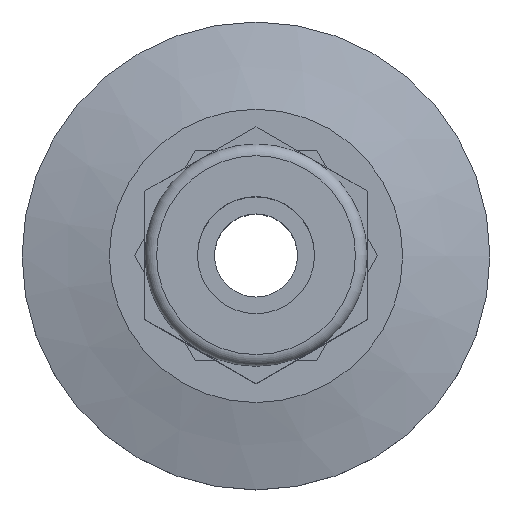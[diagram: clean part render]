
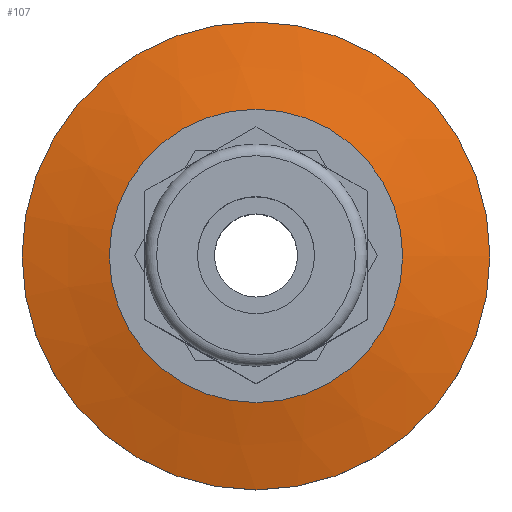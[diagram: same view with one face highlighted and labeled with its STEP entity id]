
A CAD part, top view. The second image highlights one B-rep face of the part: STEP entity #107.
In plain terms, the highlighted conical face has half-angle 75 degrees and reference radius 20 mm.
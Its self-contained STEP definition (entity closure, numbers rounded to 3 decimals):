
#107 = ADVANCED_FACE( '', ( #222, #223 ), #224, .T. );
#222 = FACE_BOUND( '', #374, .T. );
#223 = FACE_OUTER_BOUND( '', #375, .T. );
#224 = CONICAL_SURFACE( '', #376, 20., 1.309 );
#374 = EDGE_LOOP( '', ( #518 ) );
#375 = EDGE_LOOP( '', ( #519 ) );
#376 = AXIS2_PLACEMENT_3D( '', #520, #521, #522 );
#518 = ORIENTED_EDGE( '', *, *, #806, .F. );
#519 = ORIENTED_EDGE( '', *, *, #807, .T. );
#520 = CARTESIAN_POINT( '', ( 0., 0., 3. ) );
#521 = DIRECTION( '', ( 0., 0., -1. ) );
#522 = DIRECTION( '', ( -1., 0., 0. ) );
#806 = EDGE_CURVE( '', #915, #915, #916, .T. );
#807 = EDGE_CURVE( '', #917, #917, #918, .T. );
#915 = VERTEX_POINT( '', #1072 );
#916 = CIRCLE( '', #1073, 12.536 );
#917 = VERTEX_POINT( '', #1074 );
#918 = CIRCLE( '', #1075, 20. );
#1072 = CARTESIAN_POINT( '', ( 12.536, 0., 5. ) );
#1073 = AXIS2_PLACEMENT_3D( '', #1264, #1265, #1266 );
#1074 = CARTESIAN_POINT( '', ( 20., 0., 3. ) );
#1075 = AXIS2_PLACEMENT_3D( '', #1267, #1268, #1269 );
#1264 = CARTESIAN_POINT( '', ( 0., 0., 5. ) );
#1265 = DIRECTION( '', ( 0., 0., 1. ) );
#1266 = DIRECTION( '', ( 1., 0., 0. ) );
#1267 = CARTESIAN_POINT( '', ( 0., 0., 3. ) );
#1268 = DIRECTION( '', ( 0., 0., 1. ) );
#1269 = DIRECTION( '', ( 1., 0., 0. ) );
